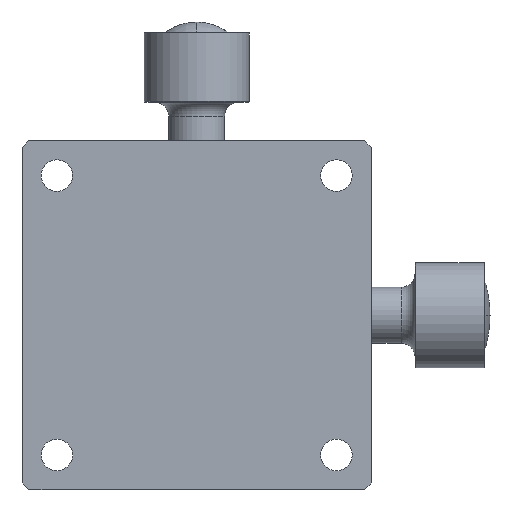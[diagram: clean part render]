
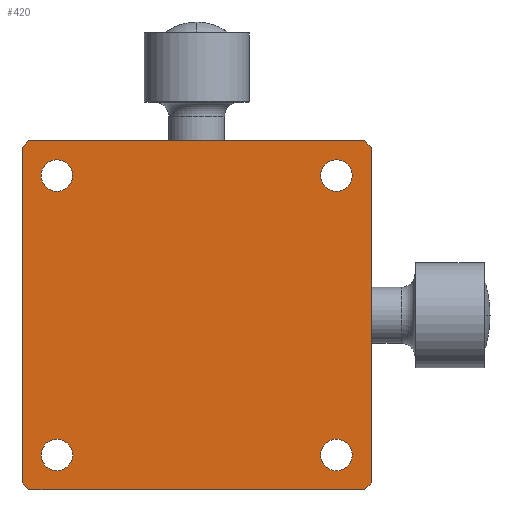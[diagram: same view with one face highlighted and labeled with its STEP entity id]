
A CAD part, front view. The second image highlights one B-rep face of the part: STEP entity #420.
In plain terms, the highlighted planar face has unit normal (0, -1, 0).
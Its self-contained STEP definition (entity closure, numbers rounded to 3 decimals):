
#137 = VERTEX_POINT ( 'NONE', #9412 ) ;
#177 = EDGE_CURVE ( 'NONE', #137, #377, #9724, .T. ) ;
#276 = EDGE_CURVE ( 'NONE', #8720, #316, #9862, .T. ) ;
#279 = ORIENTED_EDGE ( 'NONE', *, *, #338, .T. ) ;
#280 = ORIENTED_EDGE ( 'NONE', *, *, #310, .F. ) ;
#287 = EDGE_CURVE ( 'NONE', #415, #316, #9868, .T. ) ;
#298 = ORIENTED_EDGE ( 'NONE', *, *, #287, .F. ) ;
#304 = ORIENTED_EDGE ( 'NONE', *, *, #8422, .T. ) ;
#305 = ORIENTED_EDGE ( 'NONE', *, *, #8382, .F. ) ;
#310 = EDGE_CURVE ( 'NONE', #358, #428, #9913, .T. ) ;
#311 = EDGE_LOOP ( 'NONE', ( #359, #304 ) ) ;
#314 = EDGE_LOOP ( 'NONE', ( #298, #364, #406, #279, #280, #394, #385, #346 ) ) ;
#316 = VERTEX_POINT ( 'NONE', #9968 ) ;
#322 = EDGE_CURVE ( 'NONE', #8265, #8383, #9962, .T. ) ;
#337 = EDGE_LOOP ( 'NONE', ( #305, #393 ) ) ;
#338 = EDGE_CURVE ( 'NONE', #137, #428, #10004, .T. ) ;
#340 = EDGE_CURVE ( 'NONE', #8399, #8398, #10000, .T. ) ;
#346 = ORIENTED_EDGE ( 'NONE', *, *, #276, .T. ) ;
#351 = ORIENTED_EDGE ( 'NONE', *, *, #386, .F. ) ;
#358 = VERTEX_POINT ( 'NONE', #10031 ) ;
#359 = ORIENTED_EDGE ( 'NONE', *, *, #365, .T. ) ;
#360 = EDGE_CURVE ( 'NONE', #415, #377, #10030, .T. ) ;
#361 = EDGE_CURVE ( 'NONE', #358, #8610, #10026, .T. ) ;
#364 = ORIENTED_EDGE ( 'NONE', *, *, #360, .T. ) ;
#365 = EDGE_CURVE ( 'NONE', #8423, #8250, #10015, .T. ) ;
#370 = ORIENTED_EDGE ( 'NONE', *, *, #340, .T. ) ;
#377 = VERTEX_POINT ( 'NONE', #10062 ) ;
#380 = ORIENTED_EDGE ( 'NONE', *, *, #8378, .F. ) ;
#381 = EDGE_LOOP ( 'NONE', ( #380, #351 ) ) ;
#385 = ORIENTED_EDGE ( 'NONE', *, *, #8609, .F. ) ;
#386 = EDGE_CURVE ( 'NONE', #8380, #8379, #10055, .T. ) ;
#393 = ORIENTED_EDGE ( 'NONE', *, *, #322, .F. ) ;
#394 = ORIENTED_EDGE ( 'NONE', *, *, #361, .T. ) ;
#405 = EDGE_LOOP ( 'NONE', ( #370, #408 ) ) ;
#406 = ORIENTED_EDGE ( 'NONE', *, *, #177, .F. ) ;
#408 = ORIENTED_EDGE ( 'NONE', *, *, #8406, .T. ) ;
#415 = VERTEX_POINT ( 'NONE', #10035 ) ;
#420 = ADVANCED_FACE ( 'NONE', ( #10087, #10086, #10085, #10084, #10083 ), #10082, .F. ) ;
#428 = VERTEX_POINT ( 'NONE', #10067 ) ;
#8250 = VERTEX_POINT ( 'NONE', #11836 ) ;
#8265 = VERTEX_POINT ( 'NONE', #11853 ) ;
#8378 = EDGE_CURVE ( 'NONE', #8379, #8380, #12124, .T. ) ;
#8379 = VERTEX_POINT ( 'NONE', #12120 ) ;
#8380 = VERTEX_POINT ( 'NONE', #12119 ) ;
#8382 = EDGE_CURVE ( 'NONE', #8383, #8265, #12117, .T. ) ;
#8383 = VERTEX_POINT ( 'NONE', #12112 ) ;
#8398 = VERTEX_POINT ( 'NONE', #12161 ) ;
#8399 = VERTEX_POINT ( 'NONE', #12160 ) ;
#8406 = EDGE_CURVE ( 'NONE', #8398, #8399, #12155, .T. ) ;
#8422 = EDGE_CURVE ( 'NONE', #8250, #8423, #12190, .T. ) ;
#8423 = VERTEX_POINT ( 'NONE', #12185 ) ;
#8609 = EDGE_CURVE ( 'NONE', #8720, #8610, #14151, .T. ) ;
#8610 = VERTEX_POINT ( 'NONE', #14147 ) ;
#8720 = VERTEX_POINT ( 'NONE', #14478 ) ;
#9412 = CARTESIAN_POINT ( 'NONE',  ( 24., 0., -25. ) ) ;
#9721 = DIRECTION ( 'NONE',  ( -1., 0., 0. ) ) ;
#9722 = VECTOR ( 'NONE', #9721, 1000. ) ;
#9723 = CARTESIAN_POINT ( 'NONE',  ( -25., 0., -25. ) ) ;
#9724 = LINE ( 'NONE', #9723, #9722 ) ;
#9856 = DIRECTION ( 'NONE',  ( -0.707, 0., -0.707 ) ) ;
#9857 = VECTOR ( 'NONE', #9856, 1000. ) ;
#9858 = CARTESIAN_POINT ( 'NONE',  ( -24., 0., 25. ) ) ;
#9862 = LINE ( 'NONE', #9858, #9857 ) ;
#9868 = LINE ( 'NONE', #9931, #9930 ) ;
#9910 = DIRECTION ( 'NONE',  ( 0., 0., -1. ) ) ;
#9911 = VECTOR ( 'NONE', #9910, 1000. ) ;
#9912 = CARTESIAN_POINT ( 'NONE',  ( 25., 0., -25. ) ) ;
#9913 = LINE ( 'NONE', #9912, #9911 ) ;
#9929 = DIRECTION ( 'NONE',  ( 0., 0., 1. ) ) ;
#9930 = VECTOR ( 'NONE', #9929, 1000. ) ;
#9931 = CARTESIAN_POINT ( 'NONE',  ( -25., 0., -25. ) ) ;
#9958 = DIRECTION ( 'NONE',  ( -1., 0., 0. ) ) ;
#9959 = DIRECTION ( 'NONE',  ( 0., -1., 0. ) ) ;
#9960 = CARTESIAN_POINT ( 'NONE',  ( -20., 0., 20. ) ) ;
#9961 = AXIS2_PLACEMENT_3D ( 'NONE', #9960, #9959, #9958 ) ;
#9962 = CIRCLE ( 'NONE', #9961, 2.25 ) ;
#9968 = CARTESIAN_POINT ( 'NONE',  ( -25., 0., 24. ) ) ;
#9996 = DIRECTION ( 'NONE',  ( 1., 0., 0. ) ) ;
#9997 = DIRECTION ( 'NONE',  ( 0., 1., 0. ) ) ;
#9998 = CARTESIAN_POINT ( 'NONE',  ( 20., 0., 20. ) ) ;
#9999 = AXIS2_PLACEMENT_3D ( 'NONE', #9998, #9997, #9996 ) ;
#10000 = CIRCLE ( 'NONE', #9999, 2.25 ) ;
#10001 = DIRECTION ( 'NONE',  ( 0.707, 0., 0.707 ) ) ;
#10002 = VECTOR ( 'NONE', #10001, 1000. ) ;
#10003 = CARTESIAN_POINT ( 'NONE',  ( 24., 0., -25. ) ) ;
#10004 = LINE ( 'NONE', #10003, #10002 ) ;
#10012 = DIRECTION ( 'NONE',  ( -1., 0., 0. ) ) ;
#10013 = DIRECTION ( 'NONE',  ( 0., 1., 0. ) ) ;
#10014 = AXIS2_PLACEMENT_3D ( 'NONE', #10021, #10013, #10012 ) ;
#10015 = CIRCLE ( 'NONE', #10014, 2.25 ) ;
#10021 = CARTESIAN_POINT ( 'NONE',  ( -20., 0., -20. ) ) ;
#10023 = DIRECTION ( 'NONE',  ( -0.707, 0., 0.707 ) ) ;
#10024 = VECTOR ( 'NONE', #10023, 1000. ) ;
#10025 = CARTESIAN_POINT ( 'NONE',  ( 25., 0., 24. ) ) ;
#10026 = LINE ( 'NONE', #10025, #10024 ) ;
#10027 = DIRECTION ( 'NONE',  ( 0.707, 0., -0.707 ) ) ;
#10028 = VECTOR ( 'NONE', #10027, 1000. ) ;
#10029 = CARTESIAN_POINT ( 'NONE',  ( -25., 0., -24. ) ) ;
#10030 = LINE ( 'NONE', #10029, #10028 ) ;
#10031 = CARTESIAN_POINT ( 'NONE',  ( 25., 0., 24. ) ) ;
#10035 = CARTESIAN_POINT ( 'NONE',  ( -25., 0., -24. ) ) ;
#10051 = DIRECTION ( 'NONE',  ( 1., 0., 0. ) ) ;
#10052 = DIRECTION ( 'NONE',  ( 0., -1., 0. ) ) ;
#10053 = CARTESIAN_POINT ( 'NONE',  ( 20., 0., -20. ) ) ;
#10054 = AXIS2_PLACEMENT_3D ( 'NONE', #10053, #10052, #10051 ) ;
#10055 = CIRCLE ( 'NONE', #10054, 2.25 ) ;
#10062 = CARTESIAN_POINT ( 'NONE',  ( -24., 0., -25. ) ) ;
#10067 = CARTESIAN_POINT ( 'NONE',  ( 25., 0., -24. ) ) ;
#10078 = DIRECTION ( 'NONE',  ( 0., 0., 1. ) ) ;
#10079 = DIRECTION ( 'NONE',  ( 0., 1., 0. ) ) ;
#10080 = CARTESIAN_POINT ( 'NONE',  ( -25., 0., 25. ) ) ;
#10081 = AXIS2_PLACEMENT_3D ( 'NONE', #10080, #10079, #10078 ) ;
#10082 = PLANE ( 'NONE',  #10081 ) ;
#10083 = FACE_BOUND ( 'NONE', #405, .T. ) ;
#10084 = FACE_BOUND ( 'NONE', #381, .T. ) ;
#10085 = FACE_OUTER_BOUND ( 'NONE', #314, .T. ) ;
#10086 = FACE_BOUND ( 'NONE', #311, .T. ) ;
#10087 = FACE_BOUND ( 'NONE', #337, .T. ) ;
#11836 = CARTESIAN_POINT ( 'NONE',  ( -17.75, 0., -20. ) ) ;
#11853 = CARTESIAN_POINT ( 'NONE',  ( -17.75, 0., 20. ) ) ;
#12112 = CARTESIAN_POINT ( 'NONE',  ( -22.25, 0., 20. ) ) ;
#12113 = DIRECTION ( 'NONE',  ( -1., 0., 0. ) ) ;
#12114 = DIRECTION ( 'NONE',  ( 0., -1., 0. ) ) ;
#12115 = CARTESIAN_POINT ( 'NONE',  ( -20., 0., 20. ) ) ;
#12116 = AXIS2_PLACEMENT_3D ( 'NONE', #12115, #12114, #12113 ) ;
#12117 = CIRCLE ( 'NONE', #12116, 2.25 ) ;
#12119 = CARTESIAN_POINT ( 'NONE',  ( 17.75, 0., -20. ) ) ;
#12120 = CARTESIAN_POINT ( 'NONE',  ( 22.25, 0., -20. ) ) ;
#12121 = DIRECTION ( 'NONE',  ( 1., 0., 0. ) ) ;
#12122 = DIRECTION ( 'NONE',  ( 0., -1., 0. ) ) ;
#12123 = AXIS2_PLACEMENT_3D ( 'NONE', #12130, #12122, #12121 ) ;
#12124 = CIRCLE ( 'NONE', #12123, 2.25 ) ;
#12130 = CARTESIAN_POINT ( 'NONE',  ( 20., 0., -20. ) ) ;
#12151 = DIRECTION ( 'NONE',  ( 1., 0., 0. ) ) ;
#12152 = DIRECTION ( 'NONE',  ( 0., 1., 0. ) ) ;
#12153 = CARTESIAN_POINT ( 'NONE',  ( 20., 0., 20. ) ) ;
#12154 = AXIS2_PLACEMENT_3D ( 'NONE', #12153, #12152, #12151 ) ;
#12155 = CIRCLE ( 'NONE', #12154, 2.25 ) ;
#12160 = CARTESIAN_POINT ( 'NONE',  ( 22.25, 0., 20. ) ) ;
#12161 = CARTESIAN_POINT ( 'NONE',  ( 17.75, 0., 20. ) ) ;
#12185 = CARTESIAN_POINT ( 'NONE',  ( -22.25, 0., -20. ) ) ;
#12186 = DIRECTION ( 'NONE',  ( -1., 0., 0. ) ) ;
#12187 = DIRECTION ( 'NONE',  ( 0., 1., 0. ) ) ;
#12188 = CARTESIAN_POINT ( 'NONE',  ( -20., 0., -20. ) ) ;
#12189 = AXIS2_PLACEMENT_3D ( 'NONE', #12188, #12187, #12186 ) ;
#12190 = CIRCLE ( 'NONE', #12189, 2.25 ) ;
#14147 = CARTESIAN_POINT ( 'NONE',  ( 24., 0., 25. ) ) ;
#14148 = DIRECTION ( 'NONE',  ( 1., 0., 0. ) ) ;
#14149 = VECTOR ( 'NONE', #14148, 1000. ) ;
#14150 = CARTESIAN_POINT ( 'NONE',  ( -25., 0., 25. ) ) ;
#14151 = LINE ( 'NONE', #14150, #14149 ) ;
#14478 = CARTESIAN_POINT ( 'NONE',  ( -24., 0., 25. ) ) ;
